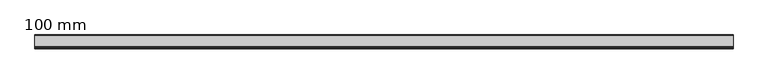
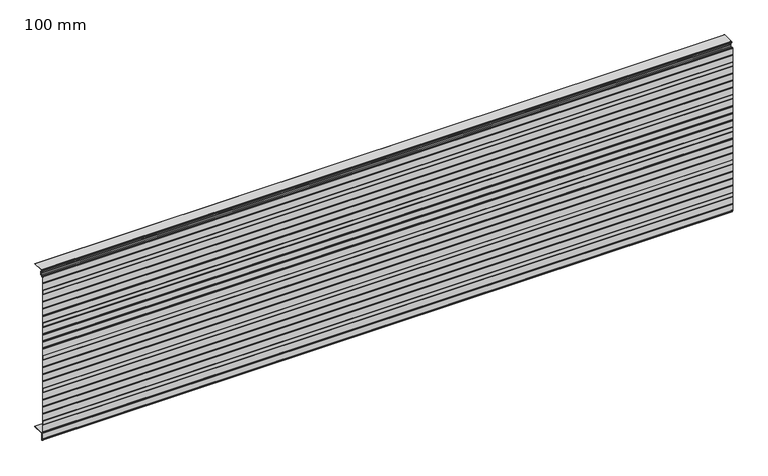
"""IFC4 building model written with IfcOpenShell, lengths in millimetres: plate geometry, HIANSA PANEL - H20.F02.002-PANELES DE FACHADA HORIZONTAL - PANEL PERFILADO - Panel de Muro Cortina : 100 mm."""

from ifc_helpers import new_model, si_unit, point, frame, frame_2d, origin, place, context, project, spatial, polyline, circle_curve, trimmed, segment, composite_curve, outline, extrude, source, transform, mapped, element, save


def plate_100_mm_383df81c(model_context):
    return source(origin(), model_context, "Body", "SweptSolid", [
        extrude(outline(polyline([(-83.7836621, 1123.0800953), (-83.012002, 1123.5800953), (-13.6987386, 1123.5800953), (-12.8994266, 1123.0800953), (-83.7836621, 1123.0800953)])), frame((-2200.0, 0.0, 0.0), z_axis=(1.0, 0.0, 0.0), x_axis=(0.0, 1.0, 0.0)), (0.0, 0.0, 1.0), 4400.0),
        extrude(outline(polyline([(-83.8274011, 25.6210465), (-12.9205789, 25.6210465), (-13.7002592, 25.1210465), (-83.0111357, 25.1210465), (-83.8274011, 25.6210465)])), frame((-2200.0, 0.0, 0.0), z_axis=(1.0, 0.0, 0.0), x_axis=(0.0, 1.0, 0.0)), (0.0, 0.0, 1.0), 4400.0),
        extrude(outline(composite_curve([segment(trimmed(circle_curve(frame_2d((-86.3367084, 23.0802198)), 2.54), [point((-88.8767084, 23.0802198))], [point((-86.3367084, 25.6202198))], False, "CARTESIAN"), True, "CONTINUOUS"), segment(polyline([(-86.3367084, 25.6202198), (-83.8260515, 25.6202198), (-83.0095828, 25.1200953), (-86.336632, 25.1202198)]), True, "CONTINUOUS"), segment(trimmed(circle_curve(frame_2d((-86.3367084, 23.0802198)), 2.04), [point((-86.336632, 25.1202198))], [point((-88.3767084, 23.0802198))], True, "CARTESIAN"), True, "CONTINUOUS"), segment(polyline([(-88.3767084, 23.0802198), (-88.3767084, -18.7009512)]), True, "CONTINUOUS"), segment(trimmed(circle_curve(frame_2d((-89.3767084, -18.7009512)), 1.0), [point((-88.3767084, -18.7009512))], [point((-89.3767084, -19.7009512))], False, "CARTESIAN"), True, "CONTINUOUS"), segment(polyline([(-89.3767084, -19.7009512), (-93.1267084, -19.7009512)]), True, "CONTINUOUS"), segment(trimmed(circle_curve(frame_2d((-93.1267084, -18.7009512)), 1.0), [point((-93.1267084, -19.7009512))], [point((-94.1267084, -18.7009512))], False, "CARTESIAN"), True, "CONTINUOUS"), segment(polyline([(-94.1267084, -18.7009512), (-94.1267084, -10.5354413)]), True, "CONTINUOUS"), segment(trimmed(circle_curve(frame_2d((-95.1267084, -10.5354413)), 1.0), [point((-94.1267084, -10.5354413))], [point((-95.1267084, -9.5354413))], True, "CARTESIAN"), True, "CONTINUOUS"), segment(polyline([(-95.1267084, -9.5354413), (-97.5159365, -9.5354413)]), True, "CONTINUOUS"), segment(trimmed(circle_curve(frame_2d((-97.5159365, -7.6351946)), 1.9002467), [point((-97.5159365, -9.5354413))], [point((-99.3594466, -8.0960721))], False, "CARTESIAN"), True, "CONTINUOUS"), segment(polyline([(-99.3594466, -8.0960721), (-99.9990488, -5.5376633), (-99.9990488, 33.6845589), (-98.9990488, 37.6845589), (-99.9990488, 41.6845589), (-99.9990488, 84.9067811), (-98.9990488, 87.9067811), (-98.9990488, 113.0187811), (-99.9990488, 116.0187811), (-99.9990488, 159.2410033), (-98.9990488, 163.2410033), (-99.9990488, 167.2410033), (-99.9990488, 206.4632255), (-98.9990488, 210.4632255), (-99.9990488, 214.4632255), (-99.9990488, 253.6854477), (-98.9990488, 257.6854477), (-99.9990488, 261.6854477), (-99.9990488, 304.9076699), (-98.9990488, 307.9076699), (-98.9990488, 333.0196699), (-99.9990488, 336.0196699), (-99.9990488, 379.2418921), (-98.9990488, 383.2418921), (-99.9990488, 387.2418921), (-99.9990488, 426.4641143), (-98.9990488, 430.4641143), (-99.9990488, 434.4641143), (-99.9990488, 473.6863365), (-98.9990488, 477.6863365), (-99.9990488, 481.6863365), (-99.9990488, 524.9085587), (-98.9990488, 527.9085587), (-98.9990488, 553.0205587), (-99.9990488, 556.0205587), (-99.9990488, 599.2427809), (-98.9990488, 603.2427809), (-99.9990488, 607.2427809), (-99.9990488, 646.4650031), (-98.9990488, 650.4650031), (-99.9990488, 654.4650031), (-99.9990488, 693.6872253), (-98.9990488, 697.6872253), (-99.9990488, 701.6872253), (-99.9990488, 744.9094475), (-98.9990488, 747.9094475), (-98.9990488, 773.0214475), (-99.9990488, 776.0214475), (-99.9990488, 819.2436697), (-98.9990488, 823.2436697), (-99.9990488, 827.2436697), (-99.9990488, 866.4658919), (-98.9990488, 870.4658919), (-99.9990488, 874.4658919), (-99.9990488, 913.6881141), (-98.9990488, 917.6881141), (-99.9990488, 921.6881141), (-99.9990488, 964.9103363), (-98.9990488, 967.9103363), (-98.9990488, 993.0223363), (-99.9990488, 996.0223363), (-99.9990488, 1039.2445585), (-98.9990488, 1043.2445585), (-99.9990488, 1047.2445585), (-99.9990488, 1086.4667807), (-99.3593999, 1089.0253764)]), True, "CONTINUOUS"), segment(trimmed(circle_curve(frame_2d((-97.5161291, 1088.5645587)), 1.9), [point((-99.3593999, 1089.0253764))], [point((-97.5161291, 1090.4645587))], False, "CARTESIAN"), True, "CONTINUOUS"), segment(polyline([(-97.5161291, 1090.4645587), (-95.3767084, 1090.4645587)]), True, "CONTINUOUS"), segment(trimmed(circle_curve(frame_2d((-95.3767084, 1089.4645587)), 1.0), [point((-95.3767084, 1090.4645587))], [point((-94.3767084, 1089.4645587))], False, "CARTESIAN"), True, "CONTINUOUS"), segment(polyline([(-94.3767084, 1089.4645587), (-94.3767084, 1080.7990488)]), True, "CONTINUOUS"), segment(trimmed(circle_curve(frame_2d((-93.3767084, 1080.7990488)), 1.0), [point((-94.3767084, 1080.7990488))], [point((-93.3767084, 1079.7990488))], True, "CARTESIAN"), True, "CONTINUOUS"), segment(polyline([(-93.3767084, 1079.7990488), (-89.1267084, 1079.7990488)]), True, "CONTINUOUS"), segment(trimmed(circle_curve(frame_2d((-89.1267084, 1080.7990488)), 1.0), [point((-89.1267084, 1079.7990488))], [point((-88.1267084, 1080.7990488))], True, "CARTESIAN"), True, "CONTINUOUS"), segment(polyline([(-88.1267084, 1080.7990488), (-88.1267084, 1082.4003519)]), True, "CONTINUOUS"), segment(trimmed(circle_curve(frame_2d((-86.1267084, 1082.4003519)), 2.0), [point((-88.1267084, 1082.4003519))], [point((-87.2738613, 1084.038656))], False, "CARTESIAN"), True, "CONTINUOUS"), segment(polyline([(-87.2738613, 1084.038656), (-81.2163437, 1088.2801754)]), True, "CONTINUOUS"), segment(trimmed(circle_curve(frame_2d((-82.0767084, 1089.5089035)), 1.5), [point((-81.2163437, 1088.2801754))], [point((-80.5767084, 1089.5089035))], True, "CARTESIAN"), True, "CONTINUOUS"), segment(polyline([(-80.5767084, 1089.5089035), (-80.5767084, 1098.7402031), (-79.6767084, 1100.2990488), (-80.5767084, 1101.8578945), (-80.5767084, 1111.0891941)]), True, "CONTINUOUS"), segment(trimmed(circle_curve(frame_2d((-82.0767084, 1111.0891941)), 1.5), [point((-80.5767084, 1111.0891941))], [point((-81.2163437, 1112.3179221))], True, "CARTESIAN"), True, "CONTINUOUS"), segment(polyline([(-81.2163437, 1112.3179221), (-87.2738613, 1116.5594416)]), True, "CONTINUOUS"), segment(trimmed(circle_curve(frame_2d((-86.1267084, 1118.1977457)), 2.0), [point((-87.2738613, 1116.5594416))], [point((-88.1267084, 1118.1977457))], False, "CARTESIAN"), True, "CONTINUOUS"), segment(polyline([(-88.1267084, 1118.1977457), (-88.1267084, 1121.5800953)]), True, "CONTINUOUS"), segment(trimmed(circle_curve(frame_2d((-86.1267084, 1121.5800953)), 2.0), [point((-88.1267084, 1121.5800953))], [point((-86.1267084, 1123.5800953))], False, "CARTESIAN"), True, "CONTINUOUS"), segment(polyline([(-86.1267084, 1123.5800953), (-83.0095828, 1123.5800953), (-83.7812429, 1123.0800953), (-86.1267084, 1123.0800953)]), True, "CONTINUOUS"), segment(trimmed(circle_curve(frame_2d((-86.1267084, 1121.5800953)), 1.5), [point((-86.1267084, 1123.0800953))], [point((-87.6267084, 1121.5800953))], True, "CARTESIAN"), True, "CONTINUOUS"), segment(polyline([(-87.6267084, 1121.5800953), (-87.6267084, 1118.1977457)]), True, "CONTINUOUS"), segment(trimmed(circle_curve(frame_2d((-86.1267084, 1118.1977457)), 1.5), [point((-87.6267084, 1118.1977457))], [point((-86.987073, 1116.9690176))], True, "CARTESIAN"), True, "CONTINUOUS"), segment(polyline([(-86.987073, 1116.9690176), (-80.9295555, 1112.7274982)]), True, "CONTINUOUS"), segment(trimmed(circle_curve(frame_2d((-82.0767084, 1111.0891941)), 2.0), [point((-80.9295555, 1112.7274982))], [point((-80.0767084, 1111.0891941))], False, "CARTESIAN"), True, "CONTINUOUS"), segment(polyline([(-80.0767084, 1111.0891941), (-80.0767084, 1101.9918691), (-79.3880333, 1100.7990488)]), True, "CONTINUOUS"), segment(trimmed(circle_curve(frame_2d((-80.2540587, 1100.2990488)), 1.0), [point((-79.3880333, 1100.7990488))], [point((-79.3880333, 1099.7990488))], False, "CARTESIAN"), True, "CONTINUOUS"), segment(polyline([(-79.3880333, 1099.7990488), (-80.0767084, 1098.6062285), (-80.0767084, 1089.5089035)]), True, "CONTINUOUS"), segment(trimmed(circle_curve(frame_2d((-82.0767084, 1089.5089035)), 2.0), [point((-80.0767084, 1089.5089035))], [point((-80.9295555, 1087.8705994))], False, "CARTESIAN"), True, "CONTINUOUS"), segment(polyline([(-80.9295555, 1087.8705994), (-86.987073, 1083.62908)]), True, "CONTINUOUS"), segment(trimmed(circle_curve(frame_2d((-86.1267084, 1082.4003519)), 1.5), [point((-86.987073, 1083.62908))], [point((-87.6267084, 1082.4003519))], True, "CARTESIAN"), True, "CONTINUOUS"), segment(polyline([(-87.6267084, 1082.4003519), (-87.6267084, 1080.7990488)]), True, "CONTINUOUS"), segment(trimmed(circle_curve(frame_2d((-89.1267084, 1080.7990488)), 1.5), [point((-87.6267084, 1080.7990488))], [point((-89.1267084, 1079.2990488))], False, "CARTESIAN"), True, "CONTINUOUS"), segment(polyline([(-89.1267084, 1079.2990488), (-93.3767084, 1079.2990488)]), True, "CONTINUOUS"), segment(trimmed(circle_curve(frame_2d((-93.3767084, 1080.7990488)), 1.5), [point((-93.3767084, 1079.2990488))], [point((-94.8767084, 1080.7990488))], False, "CARTESIAN"), True, "CONTINUOUS"), segment(polyline([(-94.8767084, 1080.7990488), (-94.8767084, 1089.9645587), (-97.5161291, 1089.9645587)]), True, "CONTINUOUS"), segment(trimmed(circle_curve(frame_2d((-97.5161291, 1088.5645587)), 1.4), [point((-97.5161291, 1089.9645587))], [point((-98.8743286, 1088.9041086))], True, "CARTESIAN"), True, "CONTINUOUS"), segment(polyline([(-98.8743286, 1088.9041086), (-99.4990488, 1086.4052279), (-99.4990488, 1047.3061113), (-98.4836606, 1043.2445585), (-99.4990488, 1039.1830057), (-99.4990488, 996.1034751), (-98.4990488, 993.1034751), (-98.4990488, 967.8291975), (-99.4990488, 964.8291975), (-99.4990488, 921.7496669), (-98.4836606, 917.6881141), (-99.4990488, 913.6265613), (-99.4990488, 874.5274447), (-98.4836606, 870.4658919), (-99.4990488, 866.4043391), (-99.4990488, 827.3052225), (-98.4836606, 823.2436697), (-99.4990488, 819.1821169), (-99.4990488, 776.1025863), (-98.4990488, 773.1025863), (-98.4990488, 747.8283087), (-99.4990488, 744.8283087), (-99.4990488, 701.7487781), (-98.4836606, 697.6872253), (-99.4990488, 693.6256725), (-99.4990488, 654.5265559), (-98.4836606, 650.4650031), (-99.4990488, 646.4034503), (-99.4990488, 607.3043337), (-98.4836606, 603.2427809), (-99.4990488, 599.1812281), (-99.4990488, 556.1016975), (-98.4990488, 553.1016975), (-98.4990488, 527.8274199), (-99.4990488, 524.8274199), (-99.4990488, 481.7478893), (-98.4836606, 477.6863365), (-99.4990488, 473.6247837), (-99.4990488, 434.5256671), (-98.4836606, 430.4641143), (-99.4990488, 426.4025615), (-99.4990488, 387.3034449), (-98.4836606, 383.2418921), (-99.4990488, 379.1803393), (-99.4990488, 336.1008087), (-98.4990488, 333.1008087), (-98.4990488, 307.8265311), (-99.4990488, 304.8265311), (-99.4990488, 261.7470005), (-98.4836606, 257.6854477), (-99.4990488, 253.6238949), (-99.4990488, 214.5247783), (-98.4836606, 210.4632255), (-99.4990488, 206.4016727), (-99.4990488, 167.3025561), (-98.4836606, 163.2410033), (-99.4990488, 159.1794505), (-99.4990488, 116.0999199), (-98.4990488, 113.0999199), (-98.4990488, 87.8256423), (-99.4990488, 84.8256423), (-99.4990488, 41.7461117), (-98.4836606, 37.6845589), (-99.4990488, 33.6230061), (-99.4990488, -5.4761105), (-98.8741312, -7.9757808)]), True, "CONTINUOUS"), segment(trimmed(circle_curve(frame_2d((-97.5169431, -7.6364838)), 1.3989577), [point((-98.8741312, -7.9757808))], [point((-97.5169431, -9.0354415))], True, "CARTESIAN"), True, "CONTINUOUS"), segment(polyline([(-97.5169431, -9.0354415), (-95.1267084, -9.0354413)]), True, "CONTINUOUS"), segment(trimmed(circle_curve(frame_2d((-95.1267084, -10.5354413)), 1.5), [point((-95.1267084, -9.0354413))], [point((-93.6267084, -10.5354413))], False, "CARTESIAN"), True, "CONTINUOUS"), segment(polyline([(-93.6267084, -10.5354413), (-93.6267084, -19.2009512), (-88.8767084, -19.2009512), (-88.8767084, 23.0802198)]), True, "CONTINUOUS")], self_intersect=False)), frame((-2200.0, 0.0, 0.0), z_axis=(1.0, 0.0, 0.0), x_axis=(0.0, 1.0, 0.0)), (0.0, 0.0, 1.0), 4400.0),
    ])


if __name__ == "__main__":
    model = new_model("IFC4")
    model_context = context("Model", 3, world=origin())
    ifc_project = project(units=[si_unit("LENGTHUNIT", "METRE", prefix="MILLI")], contexts=[model_context])
    site = spatial("IfcSite", under=ifc_project)
    building = spatial("IfcBuilding", under=site)
    placement = place(None, origin())
    plate_100_mm_shape = plate_100_mm_383df81c(model_context)
    element("IfcPlate", 1, ObjectType="HIANSA PANEL - H20.F02.002-PANELES DE FACHADA HORIZONTAL - PANEL PERFILADO - Panel de Muro Cortina : 100 mm", at=placement, inside=building, context=model_context, shape_type="MappedRepresentation", body=[
        mapped(plate_100_mm_shape, transform((0.0, 0.0, 0.0), x_axis=(1.0, 0.0, 0.0), y_axis=(0.0, 1.0, 0.0), z_axis=(0.0, 0.0, 1.0))),
    ])
    save(model, "model.ifc")
